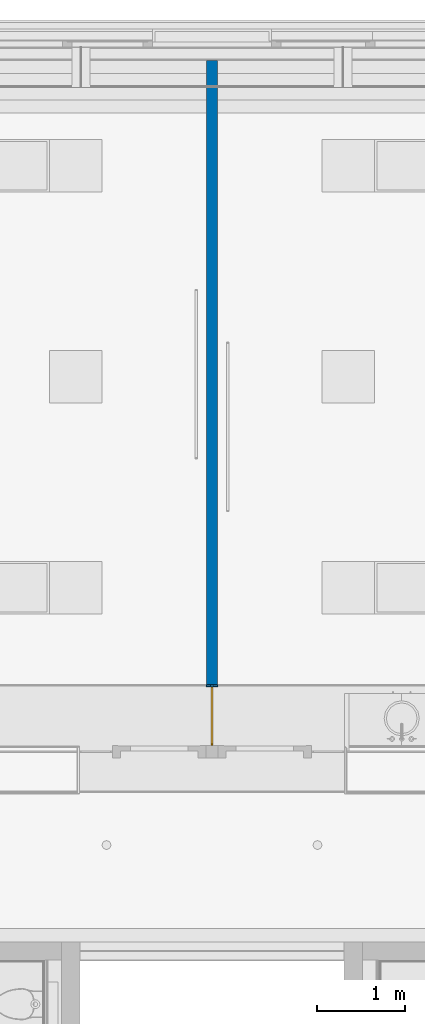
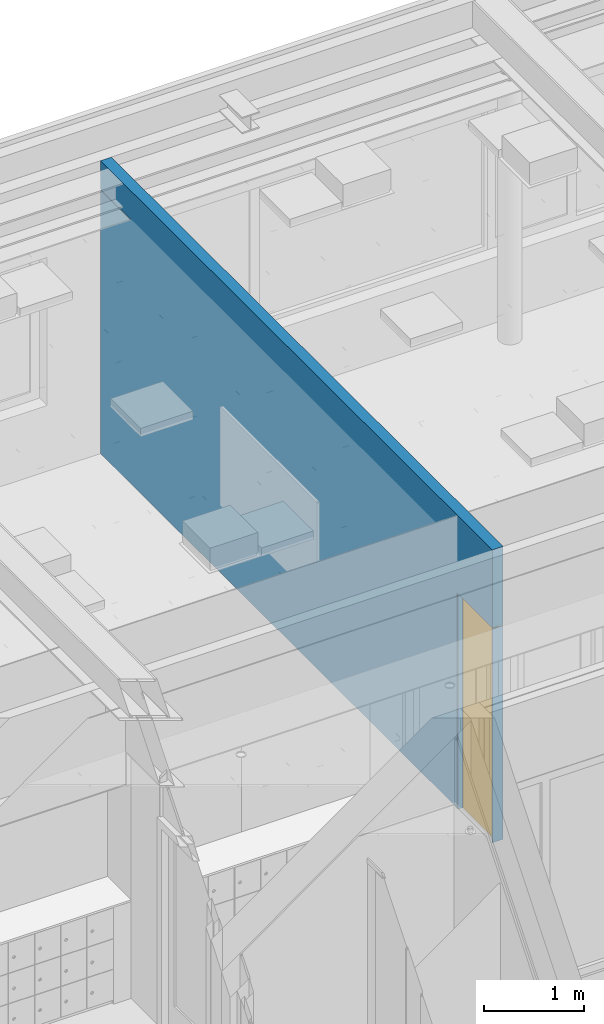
# One storey, part 36 of 260: 2 building element parts, 1 wall, 1 window, 2 openings, 1 element without a shape of its own.
"""IFC2X3 building model written with IfcOpenShell, lengths in millimetres."""

from ifc_helpers import new_model, entity, si_unit, converted_unit, derived_unit, money_unit, direction, frame, origin_with_axes, place, context, subcontext, project, spatial, open_shell, faceted_brep, surface_model, source, transform, mapped, material, type_object, element, fill, aggregate, save


model = new_model("IFC2X3")

# Units and contexts
model_context = context("Model", 3, precision=0.01, world=origin_with_axes(), true_north=direction((0.0, 1.0)))
plan_context = context("Plan", 3, precision=0.01, world=origin_with_axes(), true_north=direction((0.0, 1.0)))
body_context = subcontext(model_context, "Body", "Model", "MODEL_VIEW")
ifc_project = project(units=[si_unit("LENGTHUNIT", "METRE", prefix="MILLI"), si_unit("AREAUNIT", "SQUARE_METRE"), si_unit("VOLUMEUNIT", "CUBIC_METRE"), converted_unit("PLANEANGLEUNIT", "DEGREE", entity("IfcPlaneAngleMeasure", 0.0174532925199), si_unit("PLANEANGLEUNIT", "RADIAN"), dimensions=[0, 0, 0, 0, 0, 0, 0]), money_unit("EUR"), converted_unit("TIMEUNIT", "Year", entity("IfcTimeMeasure", 31556926.0), si_unit("TIMEUNIT", "SECOND"), dimensions=[0, 0, 1, 0, 0, 0, 0]), si_unit("MASSUNIT", "GRAM", prefix="KILO"), si_unit("THERMODYNAMICTEMPERATUREUNIT", "DEGREE_CELSIUS"), si_unit("LUMINOUSINTENSITYUNIT", "LUMEN"), si_unit("ENERGYUNIT", "JOULE", prefix="MEGA"), derived_unit("THERMALCONDUCTANCEUNIT", [(si_unit("POWERUNIT", "WATT"), 1), (si_unit("LENGTHUNIT", "METRE"), -1), (si_unit("THERMODYNAMICTEMPERATUREUNIT", "KELVIN"), -1)]), derived_unit("SPECIFICHEATCAPACITYUNIT", [(si_unit("ENERGYUNIT", "JOULE"), 1), (si_unit("MASSUNIT", "GRAM", prefix="KILO"), -1), (si_unit("THERMODYNAMICTEMPERATUREUNIT", "KELVIN"), -1)]), derived_unit("MASSDENSITYUNIT", [(si_unit("MASSUNIT", "GRAM", prefix="KILO"), 1), (si_unit("VOLUMEUNIT", "CUBIC_METRE"), -1)])], contexts=[model_context, plan_context])

# Site, building, storey
site_placement = place(None, origin_with_axes())
site = spatial("IfcSite", under=ifc_project, at=site_placement, Name="Site", CompositionType="ELEMENT")
building_placement = place(site_placement, origin_with_axes())
building = spatial("IfcBuilding", under=site, at=building_placement, Name="Naam gebouw", CompositionType="ELEMENT")
storey_placement = place(building_placement, frame((0.0, 0.0, 3960.0), z_axis=(0.0, 0.0, 1.0), x_axis=(1.0, 0.0, 0.0)))
storey = spatial("IfcBuildingStorey", under=building, at=storey_placement, Name="verdieping", CompositionType="ELEMENT", Elevation=3960.0)

# Wall, openings, windows, building element parts
ifc_material_1 = material(Name="ALG - LICHTE SCHEIDINGSWAND")
wall_type = type_object("IfcWallType", Name="ALG LSW 125 125", PredefinedType="NOTDEFINED")
wall_placement = place(storey_placement, frame((40075.0, 39025.0, 0.0), z_axis=(0.0, 0.0, 1.0), x_axis=(0.0, 1.0, 0.0)))
wall = element("IfcWall", 1, at=wall_placement, inside=storey, type_object=wall_type, material=ifc_material_1, Name="22_GF 125 ECO DGS/2.75.2A", context=body_context, shape_type="Brep", body=[
    faceted_brep([(762.5, 62.5, 2600.0), (762.5, -62.5, 2600.0), (762.499907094, -62.5, 2612.0), (762.499907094, 62.5, 2612.0), (762.5, 62.5, 0.0), (762.5, -62.5, 0.0), (7862.00001937, -62.5, 0.0), (7861.99999747, -62.5, 3200.0), (7261.99995163, -62.5, 3200.0), (7261.99995163, -62.5, 3212.0), (7861.99999747, -62.5, 3212.0), (7862.00001937, -62.5, 3560.00001386), (62.5, -62.5, 3560.00000019), (62.5, -62.5, 2612.0), (62.5, 62.5, 2612.0), (7261.99995163, 62.5, 3212.0), (7261.99995163, 62.5, 3200.0), (7861.99999747, 62.5, 3200.0), (7862.00001937, 62.5, 0.0), (62.5, 62.5, 3560.00000019), (7862.00001937, 62.5, 3560.00001386), (7861.99999747, 62.5, 3212.0)], [[[0, 1, 2, 3]], [[4, 5, 1, 0]], [[2, 1, 5, 6, 7, 8, 9, 10, 11, 12, 13]], [[2, 13, 14, 3]], [[15, 16, 17, 18, 4, 0, 3, 14, 19, 20, 21]], [[6, 5, 4, 18]], [[17, 7, 6, 18]], [[8, 7, 17, 16]], [[9, 8, 16, 15]], [[21, 10, 9, 15]], [[10, 21, 20, 11]], [[12, 11, 20, 19]], [[14, 13, 12, 19]]]),
    faceted_brep([(62.5, -62.5, 0.0), (69.5, -62.5, 0.0), (69.5, -62.5, 2600.0), (62.5, -62.5, 2600.0), (69.5, 62.5, 0.0), (62.5, 62.5, 0.0), (69.5, 62.5, 2600.0), (62.5, 62.5, 2600.0)], [[[0, 1, 2, 3]], [[4, 1, 0, 5]], [[6, 2, 1, 4]], [[3, 2, 6, 7]], [[3, 7, 5, 0]], [[6, 4, 5, 7]]]),
])
opening_1_placement = place(wall_placement, frame((416.0, 0.0, 0.0), z_axis=(0.0, 0.0, 1.0), x_axis=(1.0, 0.0, 0.0)))
opening_1 = element("IfcOpeningElement", 2, at=opening_1_placement, cuts=wall, Name="32_10.04", context=body_context, shape_type="Brep", body=[
    faceted_brep([(-346.5, 10.0, 2600.0), (-346.5, 10.0, 0.0), (-346.5, -187.5, 0.0), (-346.5, -187.5, 2600.0), (346.5, 10.0, 2600.0), (346.5, 10.0, 0.0), (346.5, -187.5, 0.0), (346.5, -187.5, 2600.0)], [[[0, 1, 2, 3]], [[0, 4, 5, 1]], [[1, 5, 6, 2]], [[3, 2, 6, 7]], [[4, 0, 3, 7]], [[5, 4, 7, 6]]]),
    faceted_brep([(-346.5, 10.0, 0.0), (-346.5, 10.0, 2600.0), (-346.5, 187.5, 2600.0), (-346.5, 187.5, 0.0), (346.5, 10.0, 0.0), (346.5, 10.0, 2600.0), (346.5, 187.5, 2600.0), (346.5, 187.5, 0.0)], [[[0, 1, 2, 3]], [[0, 4, 5, 1]], [[1, 5, 6, 2]], [[3, 2, 6, 7]], [[4, 0, 3, 7]], [[5, 4, 7, 6]]]),
])
opening_2_placement = place(wall_placement, frame((750.0, 0.0, 0.0), z_axis=(0.0, 0.0, 1.0), x_axis=(1.0, 0.0, 0.0)))
opening_2 = element("IfcOpeningElement", 3, at=opening_2_placement, cuts=wall, Name="31_-", context=body_context, shape_type="Brep", body=[
    faceted_brep([(12.5, 187.5, 0.0), (12.5, 187.5, 2600.0), (12.5, 12.5, 2600.0), (12.5, 12.5, 0.0), (-12.5, 187.5, 0.0), (-12.5, 187.5, 2600.0), (-12.5, 12.5, 2600.0), (-12.5, 12.5, 0.0)], [[[0, 1, 2, 3]], [[0, 4, 5, 1]], [[1, 5, 6, 2]], [[3, 2, 6, 7]], [[4, 0, 3, 7]], [[5, 4, 7, 6]]]),
    faceted_brep([(12.5, -162.5, 2600.0), (12.5, -162.5, 0.0), (12.5, 12.5, 0.0), (12.5, 12.5, 2600.0), (-12.5, -162.5, 2600.0), (-12.5, -162.5, 0.0), (-12.5, 12.5, 0.0), (-12.5, 12.5, 2600.0)], [[[0, 1, 2, 3]], [[0, 4, 5, 1]], [[1, 5, 6, 2]], [[3, 2, 6, 7]], [[4, 0, 3, 7]], [[5, 4, 7, 6]]]),
])
window_style_1 = type_object("IfcWindowStyle", Name="R1 25", ConstructionType="NOTDEFINED", OperationType="SINGLE_PANEL", ParameterTakesPrecedence=False, Sizeable=False)
window_1_placement = place(opening_1_placement, frame((-346.5, 0.0, 0.0), z_axis=(0.0, 0.0, 1.0), x_axis=(1.0, 0.0, 0.0)))
window_1 = element("IfcWindow", 4, at=window_1_placement, inside=storey, type_object=window_style_1, Name="32_10.04", ObjectType="WINDOW", OverallHeight=2600.0, OverallWidth=693.0, context=body_context, shape_type="SurfaceModel", body=[
    faceted_brep([(673.0, -10.0, 2580.0), (693.0, -10.0, 2580.0), (693.0, 10.0, 2580.0), (673.0, 10.0, 2580.0), (673.0, -10.0, 20.0), (693.0, -10.0, 20.0), (693.0, 10.0, 20.0), (673.0, 10.0, 20.0)], [[[0, 1, 2, 3]], [[0, 4, 5, 1]], [[1, 5, 6, 2]], [[3, 2, 6, 7]], [[4, 0, 3, 7]], [[5, 4, 7, 6]]]),
    faceted_brep([(20.0, -10.0, 20.0), (0.0, -10.0, 20.0), (0.0, 10.0, 20.0), (20.0, 10.0, 20.0), (20.0, -10.0, 2580.0), (0.0, -10.0, 2580.0), (0.0, 10.0, 2580.0), (20.0, 10.0, 2580.0)], [[[0, 1, 2, 3]], [[0, 4, 5, 1]], [[1, 5, 6, 2]], [[3, 2, 6, 7]], [[4, 0, 3, 7]], [[5, 4, 7, 6]]]),
    faceted_brep([(673.0, -10.0, 20.0), (693.0, -10.0, 20.0), (693.0, 10.0, 20.0), (673.0, 10.0, 20.0), (20.0, -10.0, 20.0), (0.0, -10.0, 20.0), (0.0, -10.0, 0.0), (693.0, -10.0, 0.0), (693.0, 10.0, 0.0), (0.0, 10.0, 0.0), (0.0, 10.0, 20.0), (20.0, 10.0, 20.0)], [[[0, 1, 2, 3]], [[0, 4, 5, 6, 7, 1]], [[1, 7, 8, 2]], [[3, 2, 8, 9, 10, 11]], [[4, 0, 3, 11]], [[5, 4, 11, 10]], [[6, 5, 10, 9]], [[7, 6, 9, 8]]]),
    faceted_brep([(20.0, -10.0, 2580.0), (0.0, -10.0, 2580.0), (0.0, 10.0, 2580.0), (20.0, 10.0, 2580.0), (673.0, -10.0, 2580.0), (693.0, -10.0, 2580.0), (693.0, -10.0, 2600.0), (0.0, -10.0, 2600.0), (0.0, 10.0, 2600.0), (693.0, 10.0, 2600.0), (693.0, 10.0, 2580.0), (673.0, 10.0, 2580.0)], [[[0, 1, 2, 3]], [[0, 4, 5, 6, 7, 1]], [[1, 7, 8, 2]], [[3, 2, 8, 9, 10, 11]], [[4, 0, 3, 11]], [[5, 4, 11, 10]], [[6, 5, 10, 9]], [[7, 6, 9, 8]]]),
    surface_model("IfcShellBasedSurfaceModel", [(673.0, -10.0, 20.0), (673.0, -10.0, 2580.0), (20.0, -10.0, 2580.0), (20.0, -10.0, 20.0)], [open_shell([[[0, 1, 2, 3]]])]),
    surface_model("IfcShellBasedSurfaceModel", [(673.0, 10.0, 20.0), (20.0, 10.0, 20.0), (20.0, 10.0, 2580.0), (673.0, 10.0, 2580.0)], [open_shell([[[0, 1, 2, 3]]])]),
])
fill(opening_1, window_1)
window_style_2 = type_object("IfcWindowStyle", Name="32 glaslatten 125mm wand", ConstructionType="NOTDEFINED", OperationType="NOTDEFINED", ParameterTakesPrecedence=False, Sizeable=False)
window_2_placement = place(opening_2_placement, frame((-12.5, 0.0, 0.0), z_axis=(0.0, 0.0, 1.0), x_axis=(1.0, 0.0, 0.0)))
window_2 = element("IfcWindow", 5, at=window_2_placement, inside=storey, type_object=window_style_2, Name="31_-", ObjectType="WINDOW", OverallHeight=2600.0, OverallWidth=25.0)
fill(opening_2, window_2)
ifc_material_2 = material(Name="32 Hout binnenkozijn")
shared_shape_1 = source(origin_with_axes(), body_context, "Body", "Brep", [
    faceted_brep([(-12.5, -77.0, 2600.0), (-12.5, -77.0, 0.0), (12.5, -77.0, 0.0), (12.5, -77.0, 2600.0), (-12.5, -25.0, 2600.0), (-12.5, -25.0, 0.0), (12.5, -25.0, 0.0), (12.5, -25.0, 2600.0)], [[[0, 1, 2, 3]], [[4, 5, 1, 0]], [[1, 5, 6, 2]], [[3, 2, 6, 7]], [[0, 3, 7, 4]], [[7, 6, 5, 4]]]),
    faceted_brep([(-12.5, 0.0, 2600.0), (-12.5, 0.0, 0.0), (12.5, 0.0, 0.0), (12.5, 0.0, 2600.0), (-12.5, 52.0, 2600.0), (-12.5, 52.0, 0.0), (12.5, 52.0, 0.0), (12.5, 52.0, 2600.0)], [[[0, 1, 2, 3]], [[4, 5, 1, 0]], [[1, 5, 6, 2]], [[3, 2, 6, 7]], [[0, 3, 7, 4]], [[7, 6, 5, 4]]]),
])
building_element_part_1_placement = place(window_2_placement, origin_with_axes())
building_element_part_1 = element("IfcBuildingElementPart", 6, at=building_element_part_1_placement, material=ifc_material_2, Name="32 Hout binnenkozijn", context=body_context, shape_type="MappedRepresentation", body=[
    mapped(shared_shape_1, transform((12.5, 12.5, 0.0))),
])
ifc_material_3 = material(Name="Membraan - rubber")
shared_shape_2 = source(origin_with_axes(), body_context, "Body", "Brep", [
    faceted_brep([(-12.5, -25.0, 2600.0), (-12.5, -25.0, 0.0), (12.5, -25.0, 0.0), (12.5, -25.0, 2600.0), (-12.5, 0.0, 2600.0), (-12.5, 0.0, 0.0), (12.5, 0.0, 0.0), (12.5, 0.0, 2600.0)], [[[0, 1, 2, 3]], [[4, 5, 1, 0]], [[1, 5, 6, 2]], [[3, 2, 6, 7]], [[0, 3, 7, 4]], [[7, 6, 5, 4]]]),
])
building_element_part_2_placement = place(window_2_placement, origin_with_axes())
building_element_part_2 = element("IfcBuildingElementPart", 7, at=building_element_part_2_placement, material=ifc_material_3, Name="Membraan - rubber", context=body_context, shape_type="MappedRepresentation", body=[
    mapped(shared_shape_2, transform((12.5, 12.5, 0.0))),
])
aggregate(window_2, [building_element_part_1, building_element_part_2])

save(model, "model.ifc")
